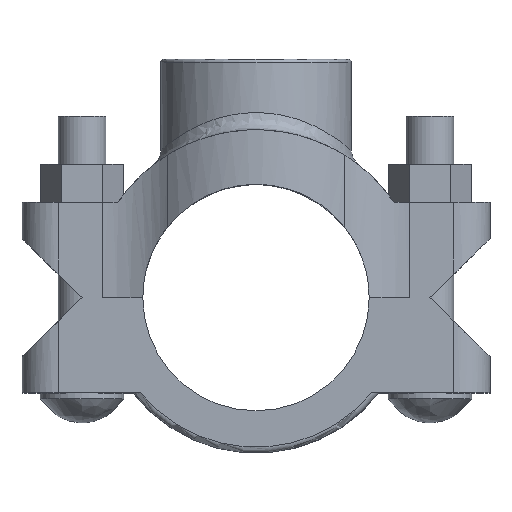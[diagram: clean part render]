
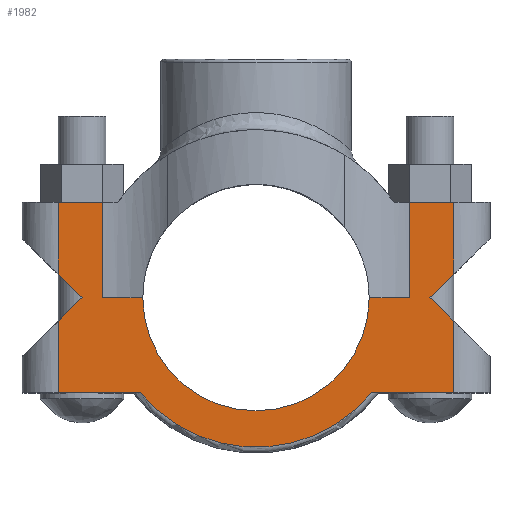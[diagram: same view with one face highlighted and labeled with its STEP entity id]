
A CAD part, top view. The second image highlights one B-rep face of the part: STEP entity #1982.
In plain terms, the highlighted planar face has unit normal (0, 0, 1).
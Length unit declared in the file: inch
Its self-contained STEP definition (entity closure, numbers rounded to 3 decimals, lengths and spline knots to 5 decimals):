
#118=LINE('',#3048,#270);
#164=LINE('',#3427,#316);
#177=LINE('',#3464,#329);
#184=LINE('',#3580,#336);
#196=LINE('',#3614,#348);
#198=LINE('',#3621,#350);
#199=LINE('',#3623,#351);
#200=LINE('',#3626,#352);
#221=LINE('',#3823,#373);
#223=LINE('',#3829,#375);
#225=LINE('',#3833,#377);
#226=LINE('',#3836,#378);
#227=LINE('',#3841,#379);
#230=LINE('',#3854,#382);
#234=LINE('',#3863,#386);
#235=LINE('',#3865,#387);
#270=VECTOR('',#2311,0.3937);
#316=VECTOR('',#2491,0.3937);
#329=VECTOR('',#2528,0.3937);
#336=VECTOR('',#2543,0.3937);
#348=VECTOR('',#2579,0.3937);
#350=VECTOR('',#2589,0.3937);
#351=VECTOR('',#2592,0.3937);
#352=VECTOR('',#2595,0.3937);
#373=VECTOR('',#2668,0.3937);
#375=VECTOR('',#2676,0.3937);
#377=VECTOR('',#2682,0.3937);
#378=VECTOR('',#2687,0.3937);
#379=VECTOR('',#2694,0.3937);
#382=VECTOR('',#2707,0.3937);
#386=VECTOR('',#2721,0.3937);
#387=VECTOR('',#2724,0.3937);
#435=PLANE('',#2188);
#526=FACE_OUTER_BOUND('',#632,.T.);
#632=EDGE_LOOP('',(#1739,#1740,#1741,#1742,#1743,#1744,#1745,#1746,#1747,
#1748,#1749,#1750,#1751,#1752,#1753,#1754,#1755,#1756));
#691=CIRCLE('',#2122,1.1875);
#700=CIRCLE('',#2146,1.57);
#794=VERTEX_POINT('',#3045);
#795=VERTEX_POINT('',#3047);
#855=VERTEX_POINT('',#3424);
#856=VERTEX_POINT('',#3426);
#867=VERTEX_POINT('',#3461);
#868=VERTEX_POINT('',#3463);
#875=VERTEX_POINT('',#3522);
#880=VERTEX_POINT('',#3575);
#881=VERTEX_POINT('',#3579);
#890=VERTEX_POINT('',#3611);
#891=VERTEX_POINT('',#3613);
#892=VERTEX_POINT('',#3619);
#893=VERTEX_POINT('',#3625);
#901=VERTEX_POINT('',#3648);
#903=VERTEX_POINT('',#3660);
#923=VERTEX_POINT('',#3822);
#925=VERTEX_POINT('',#3840);
#930=VERTEX_POINT('',#3852);
#993=EDGE_CURVE('',#795,#794,#118,.T.);
#1082=EDGE_CURVE('',#856,#855,#164,.T.);
#1101=EDGE_CURVE('',#868,#867,#177,.T.);
#1115=EDGE_CURVE('',#875,#880,#691,.T.);
#1116=EDGE_CURVE('',#881,#868,#184,.T.);
#1134=EDGE_CURVE('',#891,#890,#196,.T.);
#1138=EDGE_CURVE('',#892,#794,#198,.T.);
#1139=EDGE_CURVE('',#875,#892,#199,.T.);
#1140=EDGE_CURVE('',#881,#893,#200,.T.);
#1154=EDGE_CURVE('',#903,#901,#700,.T.);
#1186=EDGE_CURVE('',#903,#923,#221,.T.);
#1190=EDGE_CURVE('',#893,#901,#223,.T.);
#1192=EDGE_CURVE('',#855,#923,#225,.T.);
#1193=EDGE_CURVE('',#891,#880,#226,.T.);
#1195=EDGE_CURVE('',#925,#856,#227,.T.);
#1202=EDGE_CURVE('',#890,#930,#230,.T.);
#1206=EDGE_CURVE('',#867,#795,#234,.T.);
#1207=EDGE_CURVE('',#925,#930,#235,.T.);
#1739=ORIENTED_EDGE('',*,*,#1082,.T.);
#1740=ORIENTED_EDGE('',*,*,#1192,.T.);
#1741=ORIENTED_EDGE('',*,*,#1186,.F.);
#1742=ORIENTED_EDGE('',*,*,#1154,.T.);
#1743=ORIENTED_EDGE('',*,*,#1190,.F.);
#1744=ORIENTED_EDGE('',*,*,#1140,.F.);
#1745=ORIENTED_EDGE('',*,*,#1116,.T.);
#1746=ORIENTED_EDGE('',*,*,#1101,.T.);
#1747=ORIENTED_EDGE('',*,*,#1206,.T.);
#1748=ORIENTED_EDGE('',*,*,#993,.T.);
#1749=ORIENTED_EDGE('',*,*,#1138,.F.);
#1750=ORIENTED_EDGE('',*,*,#1139,.F.);
#1751=ORIENTED_EDGE('',*,*,#1115,.T.);
#1752=ORIENTED_EDGE('',*,*,#1193,.F.);
#1753=ORIENTED_EDGE('',*,*,#1134,.T.);
#1754=ORIENTED_EDGE('',*,*,#1202,.T.);
#1755=ORIENTED_EDGE('',*,*,#1207,.F.);
#1756=ORIENTED_EDGE('',*,*,#1195,.T.);
#1982=ADVANCED_FACE('',(#526),#435,.T.);
#2122=AXIS2_PLACEMENT_3D('',#3577,#2539,#2540);
#2146=AXIS2_PLACEMENT_3D('',#3661,#2614,#2615);
#2188=AXIS2_PLACEMENT_3D('',#3864,#2722,#2723);
#2311=DIRECTION('',(-1.,0.,0.));
#2491=DIRECTION('',(-0.713,-0.701,0.));
#2528=DIRECTION('',(0.713,0.701,0.));
#2539=DIRECTION('center_axis',(0.,0.,-1.));
#2540=DIRECTION('ref_axis',(-1.,0.,0.));
#2543=DIRECTION('',(-0.713,0.701,0.));
#2579=DIRECTION('',(0.,1.,0.));
#2589=DIRECTION('',(0.,1.,0.));
#2592=DIRECTION('',(1.,0.,0.));
#2595=DIRECTION('',(0.,-1.,0.));
#2614=DIRECTION('center_axis',(0.,0.,1.));
#2615=DIRECTION('ref_axis',(-1.,0.,0.));
#2668=DIRECTION('',(-1.,0.,0.));
#2676=DIRECTION('',(-1.,0.,0.));
#2682=DIRECTION('',(0.,-1.,0.));
#2687=DIRECTION('',(1.,0.,0.));
#2694=DIRECTION('',(0.713,-0.701,0.));
#2707=DIRECTION('',(-1.,0.,0.));
#2721=DIRECTION('',(0.,1.,0.));
#2722=DIRECTION('center_axis',(0.,0.,1.));
#2723=DIRECTION('ref_axis',(1.,0.,0.));
#2724=DIRECTION('',(0.,1.,0.));
#3045=CARTESIAN_POINT('',(1.60565,1.,0.75));
#3047=CARTESIAN_POINT('',(2.075,1.,0.75));
#3048=CARTESIAN_POINT('',(1.52698,1.,0.75));
#3424=CARTESIAN_POINT('',(-2.075,-0.24603,0.75));
#3426=CARTESIAN_POINT('',(-1.825,0.,0.75));
#3427=CARTESIAN_POINT('',(-1.26861,0.54755,0.75));
#3461=CARTESIAN_POINT('',(2.075,0.24603,0.75));
#3463=CARTESIAN_POINT('',(1.825,0.,0.75));
#3464=CARTESIAN_POINT('',(2.08429,0.25517,0.75));
#3522=CARTESIAN_POINT('',(1.1875,0.,0.75));
#3575=CARTESIAN_POINT('',(-1.1875,0.,0.75));
#3577=CARTESIAN_POINT('Origin',(0.,0.,0.75));
#3579=CARTESIAN_POINT('',(2.075,-0.24603,0.75));
#3580=CARTESIAN_POINT('',(1.76929,0.05483,0.75));
#3611=CARTESIAN_POINT('',(-1.60565,1.,0.75));
#3613=CARTESIAN_POINT('',(-1.60565,0.,0.75));
#3614=CARTESIAN_POINT('',(-1.60565,0.,0.75));
#3619=CARTESIAN_POINT('',(1.60565,0.,0.75));
#3621=CARTESIAN_POINT('',(1.60565,0.,0.75));
#3623=CARTESIAN_POINT('',(1.0375,0.,0.75));
#3625=CARTESIAN_POINT('',(2.075,-1.,0.75));
#3626=CARTESIAN_POINT('',(2.075,0.,0.75));
#3648=CARTESIAN_POINT('',(1.21033,-1.,0.75));
#3660=CARTESIAN_POINT('',(-1.21033,-1.,0.75));
#3661=CARTESIAN_POINT('Origin',(0.,0.,
0.75));
#3822=CARTESIAN_POINT('',(-2.075,-1.,0.75));
#3823=CARTESIAN_POINT('',(-2.075,-1.,0.75));
#3829=CARTESIAN_POINT('',(-2.075,-1.,0.75));
#3833=CARTESIAN_POINT('',(-2.075,0.,0.75));
#3836=CARTESIAN_POINT('',(1.0375,0.,0.75));
#3840=CARTESIAN_POINT('',(-2.075,0.24603,0.75));
#3841=CARTESIAN_POINT('',(-1.8885,0.06249,0.75));
#3852=CARTESIAN_POINT('',(-2.075,1.,0.75));
#3854=CARTESIAN_POINT('',(-2.265,1.,0.75));
#3863=CARTESIAN_POINT('',(2.075,0.,0.75));
#3864=CARTESIAN_POINT('Origin',(1.60565,0.,0.75));
#3865=CARTESIAN_POINT('',(-2.075,0.,0.75));
